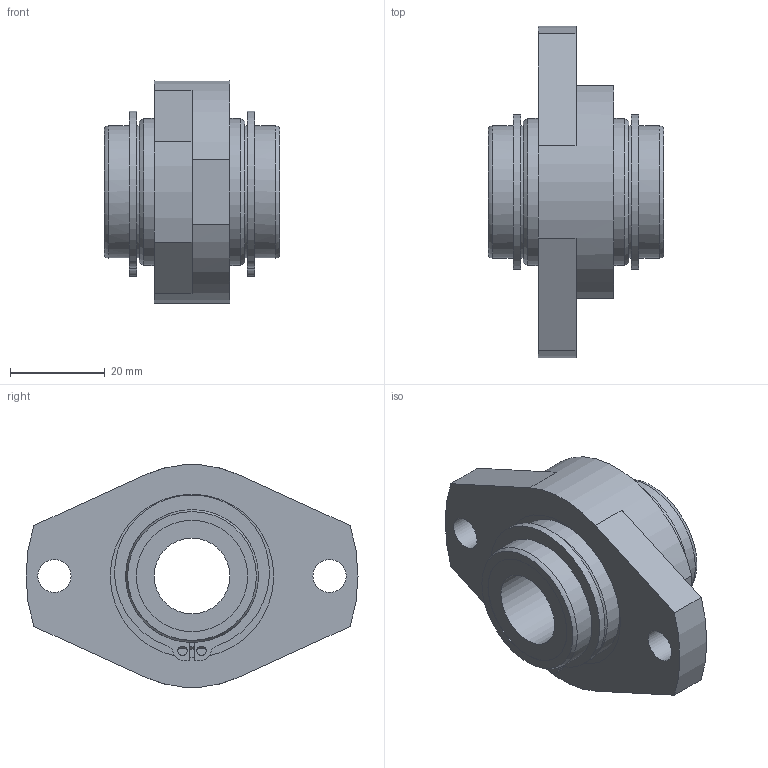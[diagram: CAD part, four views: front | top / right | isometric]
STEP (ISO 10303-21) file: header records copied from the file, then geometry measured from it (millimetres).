
FILE_DESCRIPTION((''),'2;1');
FILE_NAME('D:\製品 (図面)\カタログ用3D\シャフトブロック\PF\PF16.stp','2010-01-28T16:28:48',('Tsuchiya'),(''),'Autodesk Inventor 10','Autodesk Inventor 10','');
FILE_SCHEMA(('AUTOMOTIVE_DESIGN { 1 0 10303 214 1 1 1 1 }'));
Length unit declared in the file: millimetre
Products named in the file (1): PF16
Bounding box: 37 x 70 x 46.83 mm (x, y, z)
Volume: 38903.9 mm3; surface area: 13406 mm2
Topology: 1 solids, 2 shells, 75 faces, 177 edges, 115 vertices
Faces by surface type: plane 28, cylinder 24, bspline 15, sphere 3, cone 3, torus 2
Full cylindrical faces by diameter (mm): 2 x2, 16 x1, 23.5 x2, 28 x4, 31 x2
Entity records: 2240 total; most frequent: CARTESIAN_POINT 537, DIRECTION 364, ORIENTED_EDGE 302, AXIS2_PLACEMENT_3D 152, EDGE_CURVE 151, EDGE_LOOP 122, VERTEX_POINT 111, CIRCLE 91
